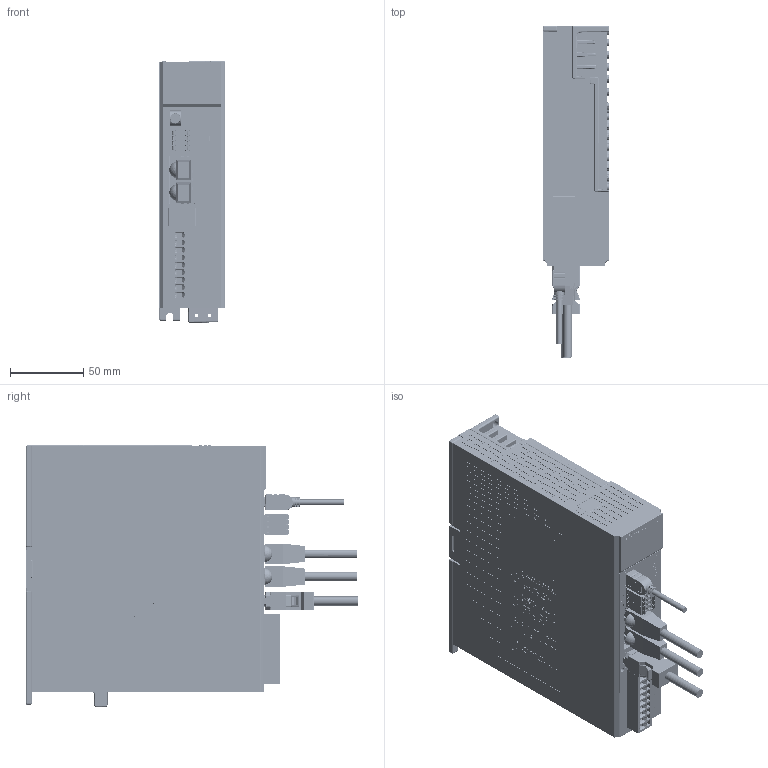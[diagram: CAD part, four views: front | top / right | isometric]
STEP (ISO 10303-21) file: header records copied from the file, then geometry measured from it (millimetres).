
FILE_DESCRIPTION(('CATIA V5 STEP Exchange'),'2;1');
FILE_NAME('C:\Users\LENOVO\Desktop\新建文件夹\DS5C2-20P4-官网图-240127.stp','2024-01-27T01:52:39+00:00',('none'),('none'),'CATIA Version 5 Release 20 GA (IN-10)','CATIA V5 STEP AP203','none');
FILE_SCHEMA(('CONFIG_CONTROL_DESIGN'));
Products named in the file (1): DS5C2-20P4-官网图-240128
Bounding box: 45 x 226 x 178.29 mm (x, y, z)
Volume: 1216312.2 mm3; surface area: 129380.3 mm2
Topology: 8 solids, 13 shells, 26397 faces, 74242 edges, 49462 vertices
Faces by surface type: plane 17506, bspline 6791, cylinder 1415, extrusion 368, sphere 147, cone 139, torus 31
Entity records: 925123 total; most frequent: CARTESIAN_POINT 312211, ORIENTED_EDGE 148170, DIRECTION 88482, EDGE_CURVE 74094, VERTEX_POINT 49461, VECTOR 48373, LINE 48005, EDGE_LOOP 28252
